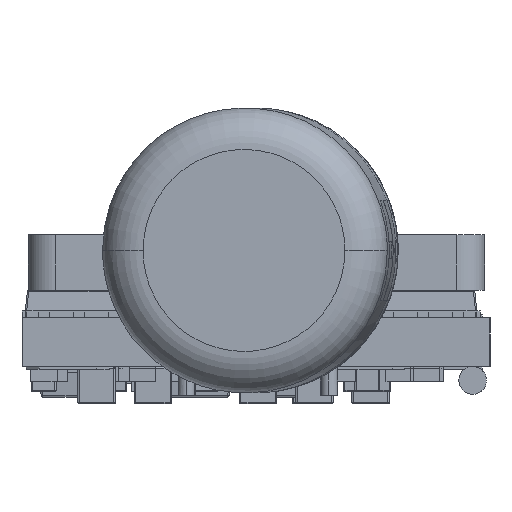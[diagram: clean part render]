
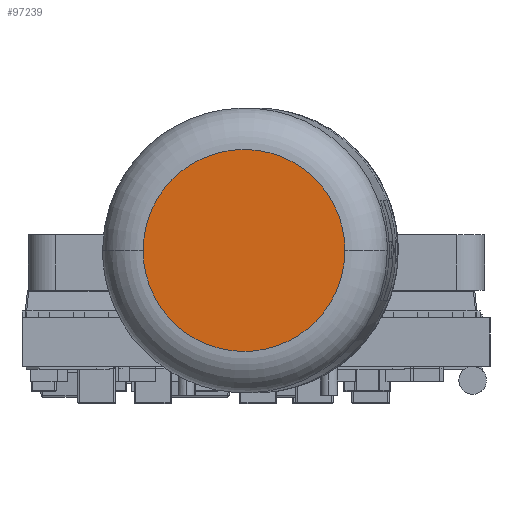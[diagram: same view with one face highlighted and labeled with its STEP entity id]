
A CAD part, left-side view. The second image highlights one B-rep face of the part: STEP entity #97239.
In plain terms, the highlighted planar face has unit normal (-1, 0.023, 0).
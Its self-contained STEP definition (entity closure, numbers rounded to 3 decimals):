
#320 = CARTESIAN_POINT ( 'NONE',  ( -27.704, 25.053, 42.697 ) ) ;
#1134 = CARTESIAN_POINT ( 'NONE',  ( -27.602, 29.538, 48.535 ) ) ;
#2175 = CARTESIAN_POINT ( 'NONE',  ( -27.581, 30.484, 47.454 ) ) ;
#7278 = CARTESIAN_POINT ( 'NONE',  ( -27.632, 28.251, 42.061 ) ) ;
#8350 = CARTESIAN_POINT ( 'NONE',  ( -27.573, 30.85, 44.661 ) ) ;
#9172 = CARTESIAN_POINT ( 'NONE',  ( -27.664, 26.818, 49.266 ) ) ;
#15323 = CARTESIAN_POINT ( 'NONE',  ( -27.736, 23.646, 45.138 ) ) ;
#15866 = CARTESIAN_POINT ( 'NONE',  ( -27.734, 23.741, 44.661 ) ) ;
#17208 = CARTESIAN_POINT ( 'NONE',  ( -27.726, 24.107, 47.454 ) ) ;
#18106 = CARTESIAN_POINT ( 'NONE',  ( -27.653, 27.296, 50.766 ) ) ;
#20314 = EDGE_CURVE ( 'NONE', #82888, #44616, #20710, .T. ) ;
#20710 = B_SPLINE_CURVE_WITH_KNOTS ( 'NONE', 3,
 ( #28763, #15323, #15866, #80667, #66209, #320, #90281, #55516, #33557, #47494, #7278, #81211, #89209, #31422, #57621, #8350, #88146, #96707 ),
 .UNSPECIFIED., .F., .F.,
 ( 4, 2, 2, 2, 2, 2, 2, 2, 4 ),
 ( 0., 0.125, 0.25, 0.375, 0.5, 0.625, 0.75, 0.875, 1. ),
 .UNSPECIFIED. ) ;
#24117 = EDGE_CURVE ( 'NONE', #44616, #82888, #31956, .T. ) ;
#26299 = CARTESIAN_POINT ( 'NONE',  ( -27.612, 29.133, 48.805 ) ) ;
#27829 = AXIS2_PLACEMENT_3D ( 'NONE', #18106, #41748, #91462 ) ;
#28763 = CARTESIAN_POINT ( 'NONE',  ( -27.736, 23.646, 45.616 ) ) ;
#31422 = CARTESIAN_POINT ( 'NONE',  ( -27.587, 30.214, 43.373 ) ) ;
#31956 = B_SPLINE_CURVE_WITH_KNOTS ( 'NONE', 3,
 ( #82022, #41374, #99124, #2175, #83595, #1134, #26299, #74549, #67023, #9172, #98072, #90568, #42424, #65448, #17208, #75077, #65967, #98606 ),
 .UNSPECIFIED., .F., .F.,
 ( 4, 2, 2, 2, 2, 2, 2, 2, 4 ),
 ( 0., 0.125, 0.25, 0.375, 0.5, 0.625, 0.75, 0.875, 1. ),
 .UNSPECIFIED. ) ;
#33557 = CARTESIAN_POINT ( 'NONE',  ( -27.664, 26.818, 41.966 ) ) ;
#41374 = CARTESIAN_POINT ( 'NONE',  ( -27.57, 30.945, 46.094 ) ) ;
#41748 = DIRECTION ( 'NONE',  ( -1., 0.023, 0. ) ) ;
#42424 = CARTESIAN_POINT ( 'NONE',  ( -27.704, 25.053, 48.535 ) ) ;
#44616 = VERTEX_POINT ( 'NONE', #77869 ) ;
#47494 = CARTESIAN_POINT ( 'NONE',  ( -27.642, 27.773, 41.966 ) ) ;
#55516 = CARTESIAN_POINT ( 'NONE',  ( -27.675, 26.34, 42.061 ) ) ;
#56462 = EDGE_LOOP ( 'NONE', ( #83529, #73764 ) ) ;
#57621 = CARTESIAN_POINT ( 'NONE',  ( -27.581, 30.484, 43.778 ) ) ;
#59875 = PLANE ( 'NONE',  #27829 ) ;
#65448 = CARTESIAN_POINT ( 'NONE',  ( -27.72, 24.377, 47.859 ) ) ;
#65967 = CARTESIAN_POINT ( 'NONE',  ( -27.736, 23.646, 46.094 ) ) ;
#66209 = CARTESIAN_POINT ( 'NONE',  ( -27.72, 24.377, 43.373 ) ) ;
#67023 = CARTESIAN_POINT ( 'NONE',  ( -27.642, 27.773, 49.266 ) ) ;
#73764 = ORIENTED_EDGE ( 'NONE', *, *, #24117, .F. ) ;
#74549 = CARTESIAN_POINT ( 'NONE',  ( -27.632, 28.251, 49.171 ) ) ;
#75077 = CARTESIAN_POINT ( 'NONE',  ( -27.734, 23.741, 46.571 ) ) ;
#75450 = FACE_OUTER_BOUND ( 'NONE', #56462, .T. ) ;
#77869 = CARTESIAN_POINT ( 'NONE',  ( -27.57, 30.945, 45.616 ) ) ;
#80667 = CARTESIAN_POINT ( 'NONE',  ( -27.726, 24.107, 43.778 ) ) ;
#81211 = CARTESIAN_POINT ( 'NONE',  ( -27.612, 29.133, 42.427 ) ) ;
#82022 = CARTESIAN_POINT ( 'NONE',  ( -27.57, 30.945, 45.616 ) ) ;
#82888 = VERTEX_POINT ( 'NONE', #92863 ) ;
#83529 = ORIENTED_EDGE ( 'NONE', *, *, #20314, .F. ) ;
#83595 = CARTESIAN_POINT ( 'NONE',  ( -27.587, 30.214, 47.859 ) ) ;
#88146 = CARTESIAN_POINT ( 'NONE',  ( -27.57, 30.945, 45.138 ) ) ;
#89209 = CARTESIAN_POINT ( 'NONE',  ( -27.602, 29.538, 42.697 ) ) ;
#90281 = CARTESIAN_POINT ( 'NONE',  ( -27.695, 25.458, 42.427 ) ) ;
#90568 = CARTESIAN_POINT ( 'NONE',  ( -27.695, 25.458, 48.805 ) ) ;
#91462 = DIRECTION ( 'NONE',  ( 0., 0., 1. ) ) ;
#92863 = CARTESIAN_POINT ( 'NONE',  ( -27.736, 23.646, 45.616 ) ) ;
#96707 = CARTESIAN_POINT ( 'NONE',  ( -27.57, 30.945, 45.616 ) ) ;
#97239 = ADVANCED_FACE ( 'NONE', ( #75450 ), #59875, .T. ) ;
#98072 = CARTESIAN_POINT ( 'NONE',  ( -27.675, 26.34, 49.171 ) ) ;
#98606 = CARTESIAN_POINT ( 'NONE',  ( -27.736, 23.646, 45.616 ) ) ;
#99124 = CARTESIAN_POINT ( 'NONE',  ( -27.573, 30.85, 46.571 ) ) ;
